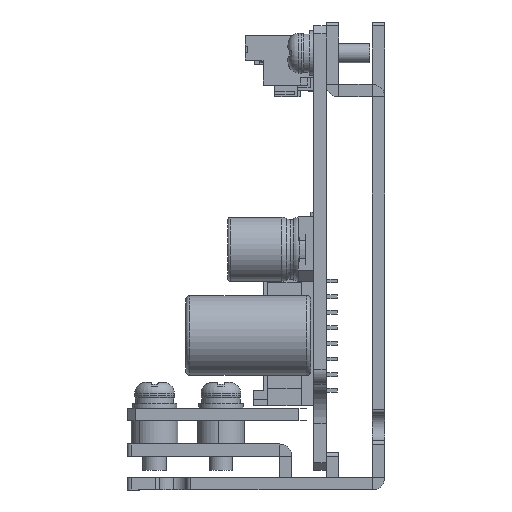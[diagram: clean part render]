
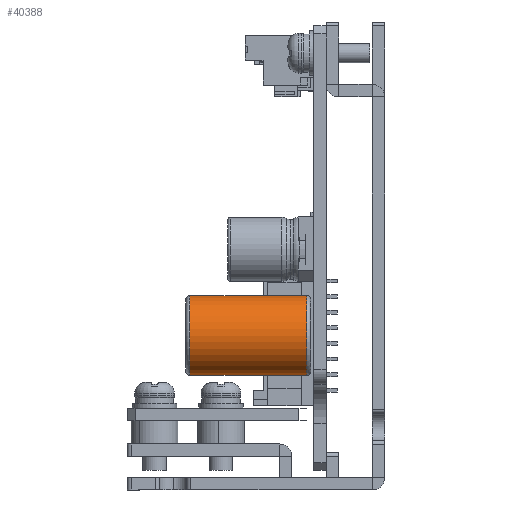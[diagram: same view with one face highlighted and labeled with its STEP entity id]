
A CAD part, left-side view. The second image highlights one B-rep face of the part: STEP entity #40388.
In plain terms, the highlighted cylindrical face has radius 5.1 mm (diameter 10.2 mm), a partial arc.
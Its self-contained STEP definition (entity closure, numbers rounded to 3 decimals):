
#973 = DIRECTION ( 'NONE',  ( 0., 0., 1. ) ) ;
#3328 = EDGE_LOOP ( 'NONE', ( #49158, #26966, #17851, #28395 ) ) ;
#6413 = VERTEX_POINT ( 'NONE', #19991 ) ;
#7412 = VERTEX_POINT ( 'NONE', #44629 ) ;
#7558 = CARTESIAN_POINT ( 'NONE',  ( -21.1, 10., -10.2 ) ) ;
#7715 = AXIS2_PLACEMENT_3D ( 'NONE', #38859, #51329, #8943 ) ;
#7724 = EDGE_CURVE ( 'NONE', #6413, #46454, #47774, .T. ) ;
#8943 = DIRECTION ( 'NONE',  ( 0., 0., -1. ) ) ;
#10231 = EDGE_CURVE ( 'NONE', #7412, #46454, #13465, .T. ) ;
#13465 = LINE ( 'NONE', #51405, #30528 ) ;
#13479 = EDGE_CURVE ( 'NONE', #7412, #27650, #35798, .T. ) ;
#17851 = ORIENTED_EDGE ( 'NONE', *, *, #48715, .T. ) ;
#19991 = CARTESIAN_POINT ( 'NONE',  ( -21.1, 10., -15.3 ) ) ;
#19996 = AXIS2_PLACEMENT_3D ( 'NONE', #30159, #39924, #973 ) ;
#20077 = CARTESIAN_POINT ( 'NONE',  ( -21.1, 10., -5.1 ) ) ;
#26966 = ORIENTED_EDGE ( 'NONE', *, *, #13479, .T. ) ;
#27200 = DIRECTION ( 'NONE',  ( 0., -1., 0. ) ) ;
#27650 = VERTEX_POINT ( 'NONE', #31043 ) ;
#28395 = ORIENTED_EDGE ( 'NONE', *, *, #7724, .T. ) ;
#30159 = CARTESIAN_POINT ( 'NONE',  ( -21.1, 25., -10.2 ) ) ;
#30528 = VECTOR ( 'NONE', #34501, 1000. ) ;
#30536 = FACE_OUTER_BOUND ( 'NONE', #3328, .T. ) ;
#31043 = CARTESIAN_POINT ( 'NONE',  ( -21.1, 25., -15.3 ) ) ;
#34501 = DIRECTION ( 'NONE',  ( 0., -1., 0. ) ) ;
#35798 = CIRCLE ( 'NONE', #19996, 5.1 ) ;
#37042 = LINE ( 'NONE', #48514, #54133 ) ;
#37076 = DIRECTION ( 'NONE',  ( 0., 1., 0. ) ) ;
#38859 = CARTESIAN_POINT ( 'NONE',  ( -21.1, 25.5, -10.2 ) ) ;
#39924 = DIRECTION ( 'NONE',  ( 0., -1., 0. ) ) ;
#40388 = ADVANCED_FACE ( 'NONE', ( #30536 ), #48233, .T. ) ;
#41106 = DIRECTION ( 'NONE',  ( 0., 0., 1. ) ) ;
#44629 = CARTESIAN_POINT ( 'NONE',  ( -21.1, 25., -5.1 ) ) ;
#45619 = AXIS2_PLACEMENT_3D ( 'NONE', #7558, #37076, #41106 ) ;
#46454 = VERTEX_POINT ( 'NONE', #20077 ) ;
#47774 = CIRCLE ( 'NONE', #45619, 5.1 ) ;
#48233 = CYLINDRICAL_SURFACE ( 'NONE', #7715, 5.1 ) ;
#48514 = CARTESIAN_POINT ( 'NONE',  ( -21.1, 25.5, -15.3 ) ) ;
#48715 = EDGE_CURVE ( 'NONE', #27650, #6413, #37042, .T. ) ;
#49158 = ORIENTED_EDGE ( 'NONE', *, *, #10231, .F. ) ;
#51329 = DIRECTION ( 'NONE',  ( 0., -1., 0. ) ) ;
#51405 = CARTESIAN_POINT ( 'NONE',  ( -21.1, 25.5, -5.1 ) ) ;
#54133 = VECTOR ( 'NONE', #27200, 1000. ) ;
